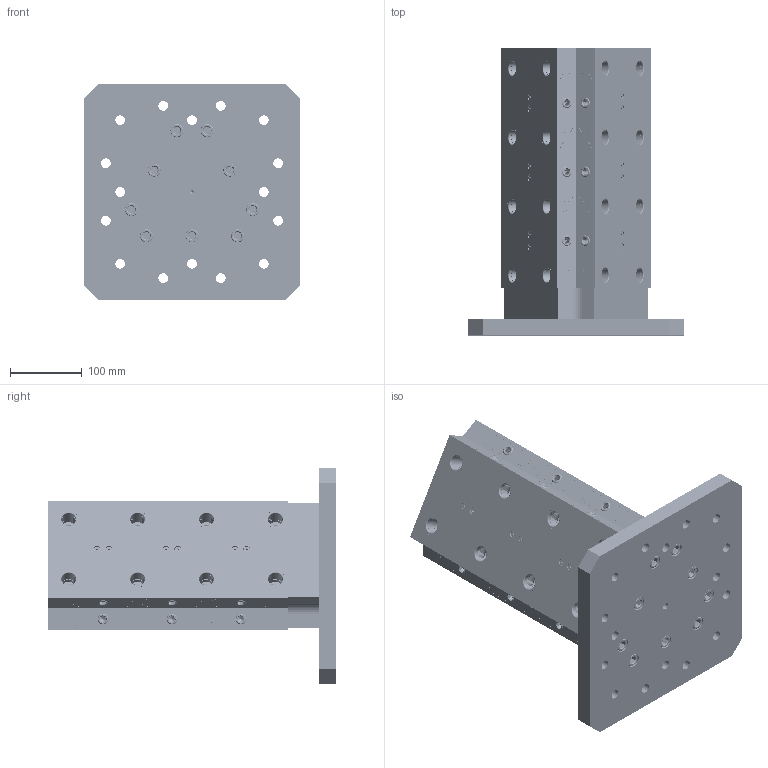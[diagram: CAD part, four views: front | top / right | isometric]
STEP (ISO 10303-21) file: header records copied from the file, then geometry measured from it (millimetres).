
FILE_DESCRIPTION (( 'STEP AP214' ), '1' );
FILE_NAME ('RL96S-3003-400_WEBSITE.step', '2025-08-11T11:38:13', ( '' ), ( '' ), 'SwSTEP 2.0', 'SolidWorks 2025', '' );
FILE_SCHEMA (( 'AUTOMOTIVE_DESIGN' ));
Length unit declared in the file: millimetre
Products named in the file (12): RL96S-3003-400_WEBSITE; SB54_WEBSITE_FINISHED PART; HW.202.OR_WEBSITE_9452K183; RL96-2R_WEBSITE_PLATING; RL96-3_WEBSITE_PLATING; RL96-2L_WEBSITE; RL96-3003BS_WEBSITE; HW27X20.DB_WEBSITE_PLATING; 91595A640_Dowel Pin_WEBSITE_91595A640; RL96-3003-337S_WEBSITE; 91290A628_Alloy Steel Socket Head Screw_WEBSITE_91290A628; MT-3337S_WEBSITE_FINISHED
Assembly tree (107 placements, depth 3):
  RL96S-3003-400_WEBSITE
    RL96-3003-337S_WEBSITE
      MT-3337S_WEBSITE_FINISHED
      RL96-3003BS_WEBSITE
      91290A628_Alloy Steel Socket Head Screw_WEBSITE_91290A628  x9
      91595A640_Dowel Pin_WEBSITE_91595A640  x2
    RL96-2L_WEBSITE  x9
    RL96-2R_WEBSITE_PLATING  x9
    RL96-3_WEBSITE_PLATING  x9
    HW27X20.DB_WEBSITE_PLATING  x24
    HW.202.OR_WEBSITE_9452K183  x24
    SB54_WEBSITE_FINISHED PART  x18
Bounding box: 300 x 400 x 300 mm (x, y, z)
Volume: 10576265.7 mm3; surface area: 1077810.4 mm2
Topology: 106 solids, 106 shells, 2667 faces, 6187 edges, 3889 vertices
Faces by surface type: plane 1561, cylinder 728, cone 236, torus 138, sphere 4
Full cylindrical faces by diameter (mm): 2.642 x18, 3.3 x18, 4 x18, 4.7 x18, 5 x43, 5.182 x18, 8.204 x18, 9 x18, 9.525 x18, 10 x2, 10.02 x4, 10.025 x1, 10.2 x9, 10.795 x9, 11.938 x24, 12 x9, 12.379 x9, 12.573 x24, 13.5 x34, 14 x19, 15.748 x18, 17.4 x9, 18 x9, 19.05 x18, 19.101 x24, 19.99 x9, 20 x25, 20.015 x24, 20.035 x24, 26.977 x24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
Entity records: 28829 total; most frequent: CARTESIAN_POINT 8396, DIRECTION 4297, ORIENTED_EDGE 3140, AXIS2_PLACEMENT_3D 1874, EDGE_LOOP 1613, EDGE_CURVE 1570, VERTEX_POINT 1237, FACE_OUTER_BOUND 1229
